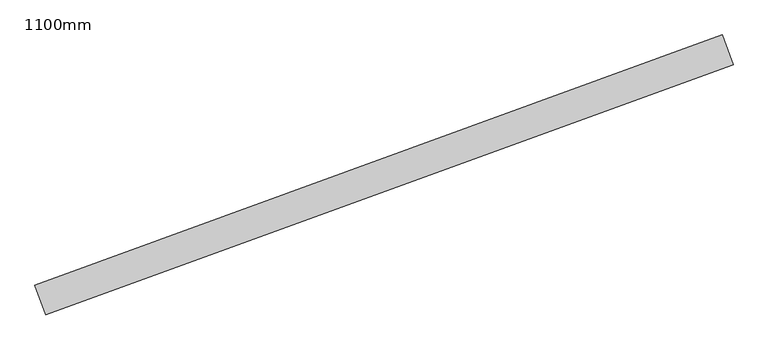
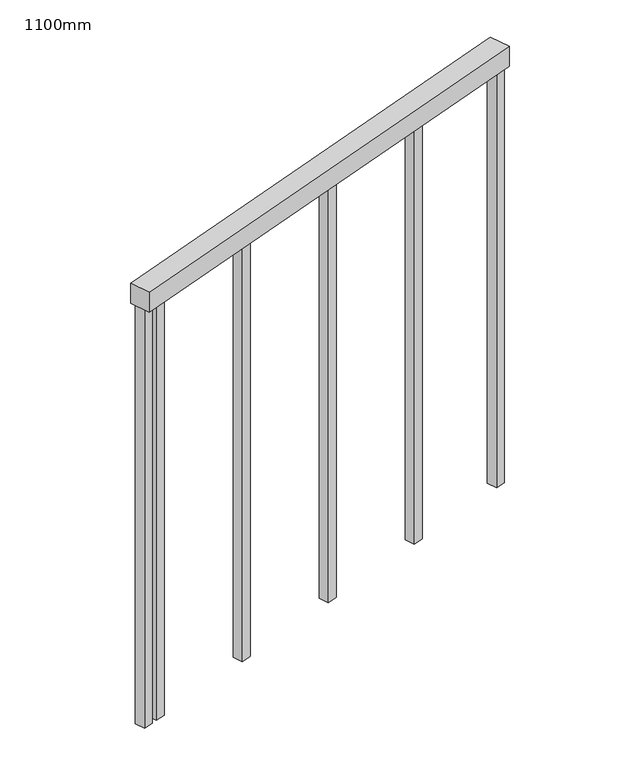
"""IFC4 building model written with IfcOpenShell, lengths in millimetres: railing geometry, 1100mm."""

from ifc_helpers import new_model, si_unit, frame, origin, place, context, project, spatial, polyline, outline, extrude, source, transform, mapped, element, save


def railing_1100mm_0c2443c6(model_context):
    return source(origin(), model_context, "Body", "SweptSolid", [
        extrude(outline(polyline([(25342.9624888, 7780.1721483), (25360.0634959, 7733.1875172), (24279.416982, 7339.8643524), (24262.3159749, 7386.8489835), (25342.9624888, 7780.1721483)])), frame((0.0, 0.0, 7070.0), z_axis=(0.0, 0.0, 1.0), x_axis=(1.0, 0.0, 0.0)), (0.0, 0.0, 1.0), 50.0),
        extrude(outline(polyline([(24325.3220155, 7396.4790847), (24333.872519, 7372.9867691), (24310.3802035, 7364.4362656), (24301.8296999, 7387.9285811), (24325.3220155, 7396.4790847)])), frame((0.0, 0.0, 6020.0), z_axis=(0.0, 0.0, 1.0), x_axis=(1.0, 0.0, 0.0)), (0.0, 0.0, 1.0), 1050.0),
        extrude(outline(polyline([(24583.7374862, 7490.5346241), (24592.2879898, 7467.0423086), (24568.7956742, 7458.491805), (24560.2451707, 7481.9841205), (24583.7374862, 7490.5346241)])), frame((0.0, 0.0, 6020.0), z_axis=(0.0, 0.0, 1.0), x_axis=(1.0, 0.0, 0.0)), (0.0, 0.0, 1.0), 1050.0),
        extrude(outline(polyline([(24842.1529569, 7584.5901635), (24850.7034605, 7561.097848), (24827.211145, 7552.5473444), (24818.6606414, 7576.0396599), (24842.1529569, 7584.5901635)])), frame((0.0, 0.0, 6020.0), z_axis=(0.0, 0.0, 1.0), x_axis=(1.0, 0.0, 0.0)), (0.0, 0.0, 1.0), 1050.0),
        extrude(outline(polyline([(25100.5684276, 7678.6457029), (25109.1189312, 7655.1533874), (25085.6266157, 7646.6028838), (25077.0761121, 7670.0951993), (25100.5684276, 7678.6457029)])), frame((0.0, 0.0, 6020.0), z_axis=(0.0, 0.0, 1.0), x_axis=(1.0, 0.0, 0.0)), (0.0, 0.0, 1.0), 1050.0),
        extrude(outline(polyline([(24290.0835422, 7383.6533293), (24298.6340458, 7360.1610138), (24275.1417302, 7351.6105102), (24266.5912267, 7375.1028257), (24290.0835422, 7383.6533293)])), frame((0.0, 0.0, 6020.0), z_axis=(0.0, 0.0, 1.0), x_axis=(1.0, 0.0, 0.0)), (0.0, 0.0, 1.0), 1050.0),
        extrude(outline(polyline([(25347.2377406, 7768.4259905), (25355.7882441, 7744.933675), (25332.2959286, 7736.3831714), (25323.745425, 7759.8754869), (25347.2377406, 7768.4259905)])), frame((0.0, 0.0, 6020.0), z_axis=(0.0, 0.0, 1.0), x_axis=(1.0, 0.0, 0.0)), (0.0, 0.0, 1.0), 1050.0),
    ])


if __name__ == "__main__":
    model = new_model("IFC4")
    model_context = context("Model", 3, world=origin())
    ifc_project = project(units=[si_unit("LENGTHUNIT", "METRE", prefix="MILLI")], contexts=[model_context])
    site = spatial("IfcSite", under=ifc_project)
    building = spatial("IfcBuilding", under=site)
    placement = place(None, origin())
    railing_1100mm_shape = railing_1100mm_0c2443c6(model_context)
    element("IfcRailing", 1, ObjectType="1100mm", at=placement, inside=building, context=model_context, shape_type="MappedRepresentation", body=[
        mapped(railing_1100mm_shape, transform((0.0, 0.0, 0.0), x_axis=(1.0, 0.0, 0.0), y_axis=(0.0, 1.0, 0.0), z_axis=(0.0, 0.0, 1.0))),
    ])
    save(model, "model.ifc")
